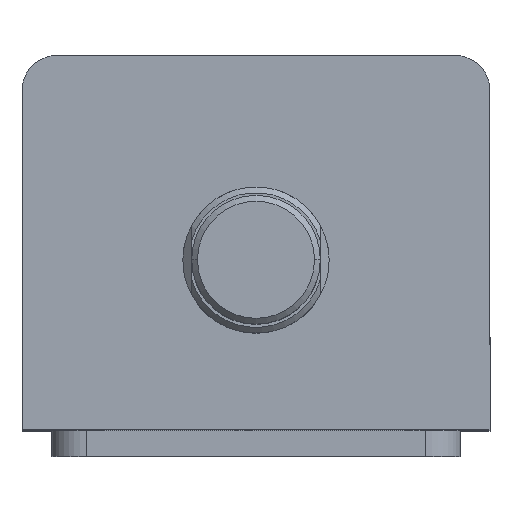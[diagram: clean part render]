
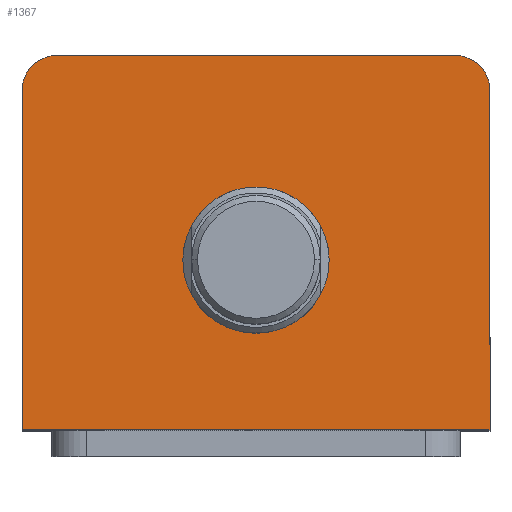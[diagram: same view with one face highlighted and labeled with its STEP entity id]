
A CAD part, top view. The second image highlights one B-rep face of the part: STEP entity #1367.
In plain terms, the highlighted planar face has unit normal (0, 0, 1).
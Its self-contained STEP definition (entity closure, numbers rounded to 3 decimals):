
#176 = ORIENTED_EDGE ( 'NONE', *, *, #1264, .F. ) ;
#177 = ORIENTED_EDGE ( 'NONE', *, *, #3536, .F. ) ;
#178 = ORIENTED_EDGE ( 'NONE', *, *, #1168, .T. ) ;
#179 = ORIENTED_EDGE ( 'NONE', *, *, #1233, .T. ) ;
#180 = ORIENTED_EDGE ( 'NONE', *, *, #1247, .T. ) ;
#181 = ORIENTED_EDGE ( 'NONE', *, *, #1245, .T. ) ;
#182 = ORIENTED_EDGE ( 'NONE', *, *, #1187, .T. ) ;
#183 = ORIENTED_EDGE ( 'NONE', *, *, #1201, .T. ) ;
#350 = VERTEX_POINT ( 'NONE', #1146 ) ;
#353 = VERTEX_POINT ( 'NONE', #1140 ) ;
#373 = VERTEX_POINT ( 'NONE', #1120 ) ;
#385 = VERTEX_POINT ( 'NONE', #1108 ) ;
#392 = VERTEX_POINT ( 'NONE', #1100 ) ;
#394 = VERTEX_POINT ( 'NONE', #1098 ) ;
#491 = AXIS2_PLACEMENT_3D ( 'NONE', #3646, #3645, #3644 ) ;
#492 = AXIS2_PLACEMENT_3D ( 'NONE', #3570, #3569, #3568 ) ;
#580 = AXIS2_PLACEMENT_3D ( 'NONE', #3684, #3683, #3682 ) ;
#707 = DIRECTION ( 'NONE',  ( 1., 0., 0. ) ) ;
#708 = DIRECTION ( 'NONE',  ( 0., 0., 1. ) ) ;
#712 = CARTESIAN_POINT ( 'NONE',  ( 0., 0., 135. ) ) ;
#714 = PLANE ( 'NONE',  #1974 ) ;
#1098 = CARTESIAN_POINT ( 'NONE',  ( -40., -32., 135. ) ) ;
#1100 = CARTESIAN_POINT ( 'NONE',  ( -40., 26., 135. ) ) ;
#1108 = CARTESIAN_POINT ( 'NONE',  ( 40., 26., 135. ) ) ;
#1120 = CARTESIAN_POINT ( 'NONE',  ( 40., -32., 135. ) ) ;
#1140 = CARTESIAN_POINT ( 'NONE',  ( -34., 32., 135. ) ) ;
#1146 = CARTESIAN_POINT ( 'NONE',  ( 34., 32., 135. ) ) ;
#1168 = EDGE_CURVE ( 'NONE', #350, #353, #1629, .T. ) ;
#1187 = EDGE_CURVE ( 'NONE', #373, #385, #1665, .T. ) ;
#1201 = EDGE_CURVE ( 'NONE', #385, #350, #1673, .T. ) ;
#1233 = EDGE_CURVE ( 'NONE', #353, #392, #1689, .T. ) ;
#1245 = EDGE_CURVE ( 'NONE', #394, #373, #1702, .T. ) ;
#1247 = EDGE_CURVE ( 'NONE', #392, #394, #1699, .T. ) ;
#1264 = EDGE_CURVE ( 'NONE', #1447, #1443, #2315, .T. ) ;
#1367 = ADVANCED_FACE ( 'NONE', ( #2455, #2459 ), #714, .T. ) ;
#1443 = VERTEX_POINT ( 'NONE', #3290 ) ;
#1447 = VERTEX_POINT ( 'NONE', #3285 ) ;
#1629 = LINE ( 'NONE', #3773, #1632 ) ;
#1632 = VECTOR ( 'NONE', #3770, 1000. ) ;
#1665 = LINE ( 'NONE', #3720, #1668 ) ;
#1668 = VECTOR ( 'NONE', #3719, 1000. ) ;
#1673 = CIRCLE ( 'NONE', #580, 6. ) ;
#1689 = CIRCLE ( 'NONE', #491, 6. ) ;
#1699 = LINE ( 'NONE', #3617, #1708 ) ;
#1702 = LINE ( 'NONE', #3623, #1705 ) ;
#1705 = VECTOR ( 'NONE', #3621, 1000. ) ;
#1708 = VECTOR ( 'NONE', #3631, 1000. ) ;
#1821 = EDGE_LOOP ( 'NONE', ( #178, #179, #180, #181, #182, #183 ) ) ;
#1830 = EDGE_LOOP ( 'NONE', ( #176, #177 ) ) ;
#1974 = AXIS2_PLACEMENT_3D ( 'NONE', #712, #708, #707 ) ;
#2085 = AXIS2_PLACEMENT_3D ( 'NONE', #3442, #3444, #3443 ) ;
#2315 = CIRCLE ( 'NONE', #492, 12.5 ) ;
#2455 = FACE_BOUND ( 'NONE', #1830, .T. ) ;
#2459 = FACE_OUTER_BOUND ( 'NONE', #1821, .T. ) ;
#2675 = CIRCLE ( 'NONE', #2085, 12.5 ) ;
#3285 = CARTESIAN_POINT ( 'NONE',  ( 12.5, -3., 135. ) ) ;
#3290 = CARTESIAN_POINT ( 'NONE',  ( -12.5, -3., 135. ) ) ;
#3442 = CARTESIAN_POINT ( 'NONE',  ( 0., -3., 135. ) ) ;
#3443 = DIRECTION ( 'NONE',  ( 1., 0., 0. ) ) ;
#3444 = DIRECTION ( 'NONE',  ( 0., 0., 1. ) ) ;
#3536 = EDGE_CURVE ( 'NONE', #1443, #1447, #2675, .T. ) ;
#3568 = DIRECTION ( 'NONE',  ( 1., 0., 0. ) ) ;
#3569 = DIRECTION ( 'NONE',  ( 0., 0., 1. ) ) ;
#3570 = CARTESIAN_POINT ( 'NONE',  ( 0., -3., 135. ) ) ;
#3617 = CARTESIAN_POINT ( 'NONE',  ( -40., 32., 135. ) ) ;
#3621 = DIRECTION ( 'NONE',  ( 1., 0., 0. ) ) ;
#3623 = CARTESIAN_POINT ( 'NONE',  ( -40., -32., 135. ) ) ;
#3631 = DIRECTION ( 'NONE',  ( 0., -1., 0. ) ) ;
#3644 = DIRECTION ( 'NONE',  ( 1., 0., 0. ) ) ;
#3645 = DIRECTION ( 'NONE',  ( 0., 0., 1. ) ) ;
#3646 = CARTESIAN_POINT ( 'NONE',  ( -34., 26., 135. ) ) ;
#3682 = DIRECTION ( 'NONE',  ( 1., 0., 0. ) ) ;
#3683 = DIRECTION ( 'NONE',  ( 0., 0., 1. ) ) ;
#3684 = CARTESIAN_POINT ( 'NONE',  ( 34., 26., 135. ) ) ;
#3719 = DIRECTION ( 'NONE',  ( 0., 1., 0. ) ) ;
#3720 = CARTESIAN_POINT ( 'NONE',  ( 40., 32., 135. ) ) ;
#3770 = DIRECTION ( 'NONE',  ( -1., 0., 0. ) ) ;
#3773 = CARTESIAN_POINT ( 'NONE',  ( -40., 32., 135. ) ) ;
